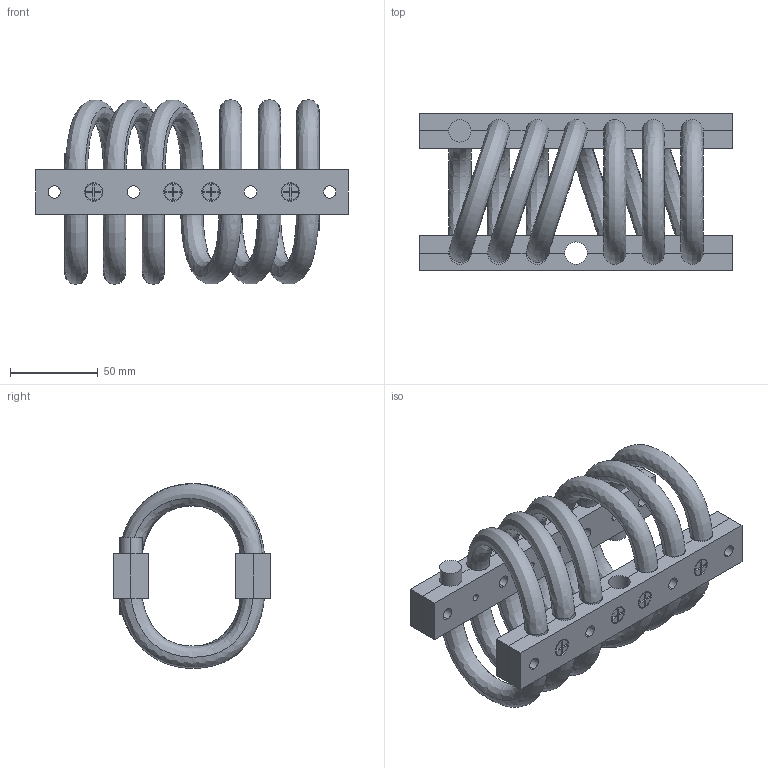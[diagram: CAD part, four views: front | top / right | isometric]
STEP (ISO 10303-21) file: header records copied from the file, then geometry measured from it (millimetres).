
FILE_DESCRIPTION (( 'STEP AP214' ), '1' );
FILE_NAME ('WR16-406-6DM.STEP', '2018-12-07T10:05:03', ( 'user' ), ( 'Microsoft' ), 'SwSTEP 2.0', 'SolidWorks 2016', '' );
FILE_SCHEMA (( 'AUTOMOTIVE_DESIGN' ));
Length unit declared in the file: millimetre
Products named in the file (1): WR16-406-6DM
Bounding box: 177.8 x 89 x 105 mm (x, y, z)
Volume: 350923.8 mm3; surface area: 135902.6 mm2
Topology: 26 solids, 26 shells, 484 faces, 1173 edges, 765 vertices
Faces by surface type: plane 216, cylinder 194, cone 48, bspline 26
Entity records: 26907 total; most frequent: CARTESIAN_POINT 14451, DIRECTION 2348, ORIENTED_EDGE 2346, EDGE_CURVE 1173, AXIS2_PLACEMENT_3D 843, VERTEX_POINT 765, VECTOR 662, LINE 662
